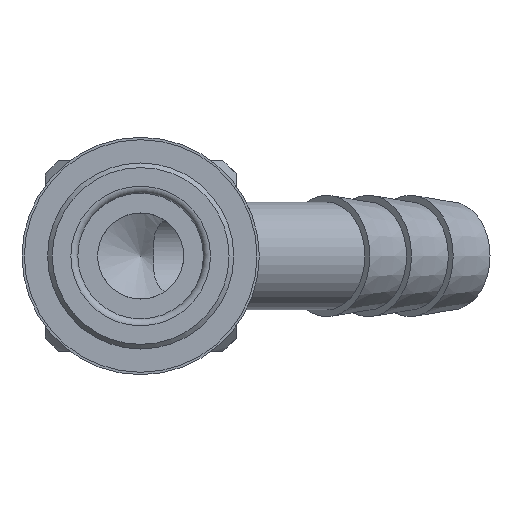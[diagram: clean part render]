
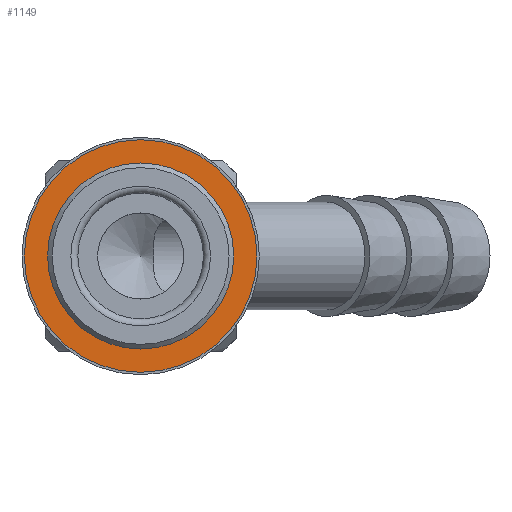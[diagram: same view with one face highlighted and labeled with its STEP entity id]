
A CAD part, left-side view. The second image highlights one B-rep face of the part: STEP entity #1149.
In plain terms, the highlighted planar face has unit normal (-1, 0, 0).
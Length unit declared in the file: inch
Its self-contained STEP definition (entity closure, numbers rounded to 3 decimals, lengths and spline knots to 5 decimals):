
#153=PLANE('',#1279);
#260=CIRCLE('',#1278,0.268);
#261=CIRCLE('',#1280,0.335);
#380=ORIENTED_EDGE('',*,*,#670,.F.);
#381=ORIENTED_EDGE('',*,*,#669,.T.);
#669=EDGE_CURVE('',#810,#810,#260,.T.);
#670=EDGE_CURVE('',#811,#811,#261,.T.);
#810=VERTEX_POINT('',#1895);
#811=VERTEX_POINT('',#1898);
#905=EDGE_LOOP('',(#380));
#906=EDGE_LOOP('',(#381));
#1025=FACE_BOUND('',#905,.T.);
#1026=FACE_BOUND('',#906,.T.);
#1149=ADVANCED_FACE('',(#1025,#1026),#153,.F.);
#1278=AXIS2_PLACEMENT_3D('',#1894,#1508,#1509);
#1279=AXIS2_PLACEMENT_3D('',#1896,#1510,#1511);
#1280=AXIS2_PLACEMENT_3D('',#1897,#1512,#1513);
#1508=DIRECTION('',(1.,0.,0.));
#1509=DIRECTION('',(0.,0.,-1.));
#1510=DIRECTION('',(1.,0.,0.));
#1511=DIRECTION('',(0.,0.,-1.));
#1512=DIRECTION('',(1.,0.,0.));
#1513=DIRECTION('',(0.,0.,-1.));
#1894=CARTESIAN_POINT('',(0.,0.,0.));
#1895=CARTESIAN_POINT('',(0.,0.,-0.268));
#1896=CARTESIAN_POINT('',(0.,0.268,0.));
#1897=CARTESIAN_POINT('',(0.,0.,0.));
#1898=CARTESIAN_POINT('',(0.,0.,-0.335));
